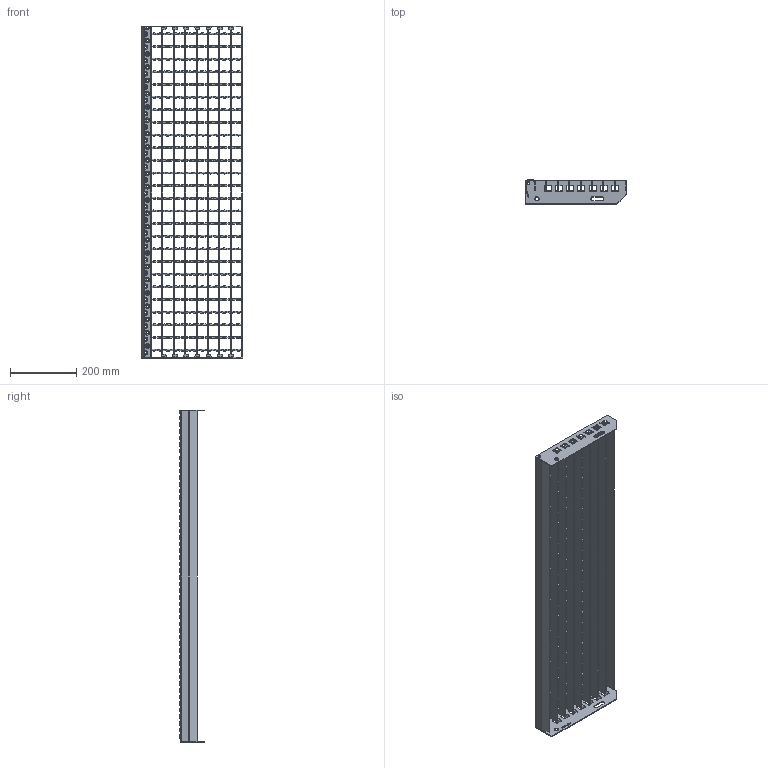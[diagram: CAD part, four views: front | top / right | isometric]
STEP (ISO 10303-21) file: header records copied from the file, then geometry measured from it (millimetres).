
FILE_DESCRIPTION(/* description */ ('','CAx-IF Rec.Pracs.---Representation and Presentation of Product Manufacturing Information (PMI)---3.8---2014-02-18'),/* implementation_level */ '2;1');
FILE_NAME(/* name */ 'C:\Users\phaverkotte\Desktop\Lager STEP\SP-Stufen\SP 330-34 38-3\SP 330-34 38-3 1000mm x305mm.stp',/* time_stamp */ '2018-03-26T07:57:01+02:00',/* author */ ('phaverkotte'),/* organization */ (''),/* preprocessor_version */ 'ST-DEVELOPER v16.13',/* originating_system */ 'Autodesk Inventor 2018',/* authorisation */ '');
FILE_SCHEMA (('AP242_MANAGED_MODEL_BASED_3D_ENGINEERING_MIM_LF { 1 0 10303 442 1 1 4 }'));
Length unit declared in the file: millimetre
Products named in the file (8): Stufe SP; Seitenplatte ausgeklinkt links; Seitenplatte 240 ausgeklinkt extern rechts; Schod nášlap; SP Rošt schodu; Nosny pas; Krouceny drat; Hinteres Flach
Assembly tree (39 placements, depth 3):
  Stufe SP
    Seitenplatte ausgeklinkt links
    Seitenplatte 240 ausgeklinkt extern rechts
    Schod nášlap
    SP Rošt schodu
      Nosny pas  x8
      Krouceny drat  x26
      Hinteres Flach
Bounding box: 305.64 x 72.75 x 1000 mm (x, y, z)
Volume: 1201003.1 mm3; surface area: 953013.2 mm2
Topology: 38 solids, 38 shells, 1340 faces, 3608 edges, 2361 vertices
Faces by surface type: plane 648, cylinder 360, cone 150, bspline 132, torus 50
Full cylindrical faces by diameter (mm): 8 x2, 13 x2
Entity records: 29126 total; most frequent: CARTESIAN_POINT 9579, DIRECTION 3972, ORIENTED_EDGE 3668, EDGE_CURVE 1834, AXIS2_PLACEMENT_3D 1406, VERTEX_POINT 1279, LINE 1160, VECTOR 1160
